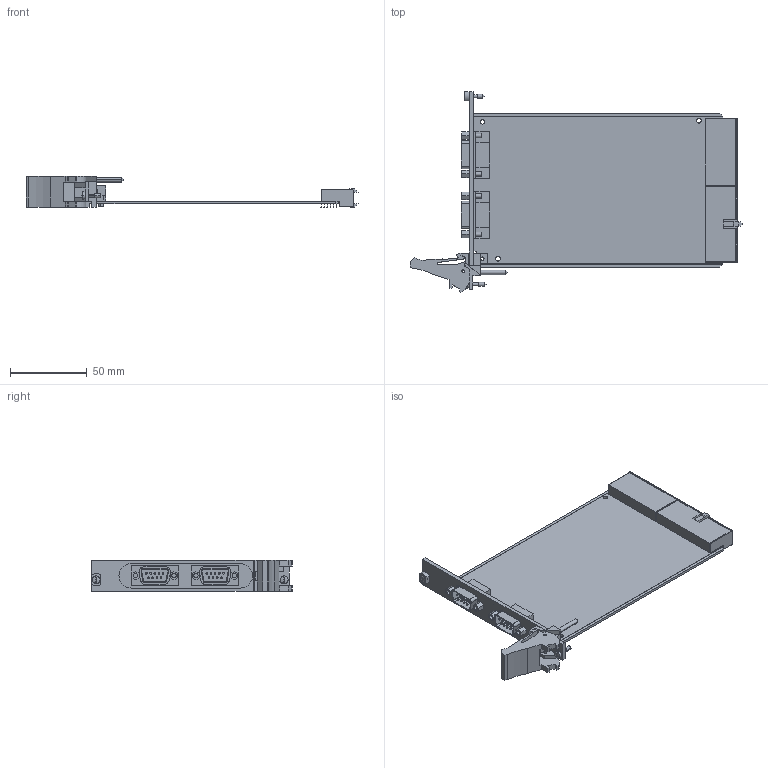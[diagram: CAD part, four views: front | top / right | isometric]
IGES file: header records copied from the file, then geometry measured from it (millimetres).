
Start section:  PTC IGES file: cu_pxi-8461-8462.igs
Global section: file name: cu_pxi-8461-8462.igs; native system: Pro/ENGINEER by Parametric Technology Corporation; preprocessor: 2006080; author: dcrowder; organization: Unknown; date: 080422.135728; units: inch
Bounding box: 216.08 x 130.62 x 20.19 mm (x, y, z)
Surface area: 53723.4 mm2 (no closed solid volume)
Topology: 0 solids, 0 shells, 666 faces, 3302 edges, 3298 vertices
Faces by surface type: bspline 396, revolution 270
